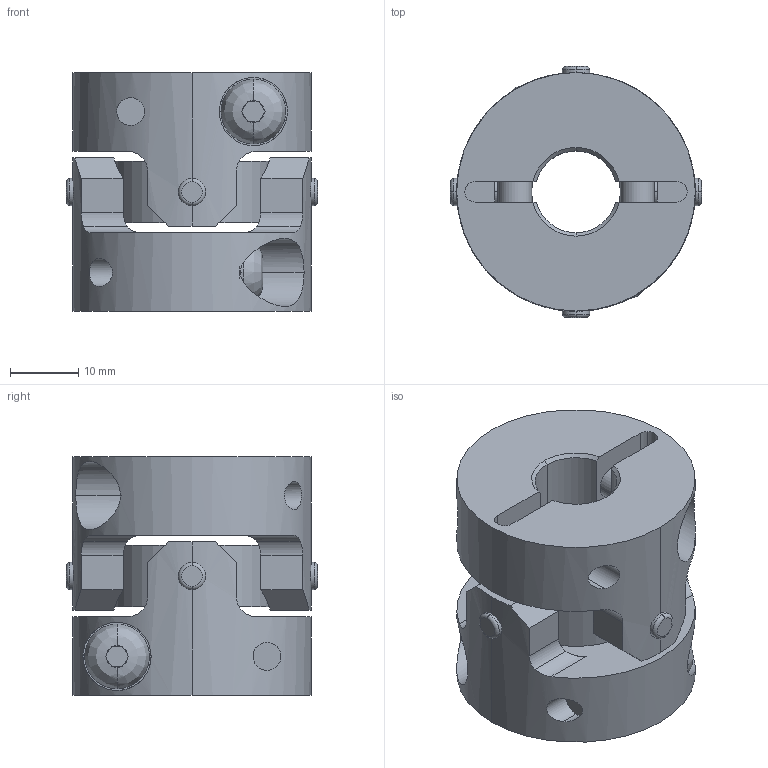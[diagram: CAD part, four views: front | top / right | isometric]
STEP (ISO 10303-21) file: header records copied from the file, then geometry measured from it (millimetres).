
FILE_DESCRIPTION((''),'2;1');
FILE_NAME('UA-35C-12×16.stp','2013-05-22T08:43:25',(''),(''),'AutoCAD STEP 2000i','AutoCAD 2000i',', , ');
FILE_SCHEMA(('CONFIG_CONTROL_DESIGN'));
Length unit declared in the file: millimetre
Products named in the file (7): UA-35C-8×14; 忣兜1; UA-3502-D14; BTN-M5; UA-3502-D08-1; UA-3502-D08; UA35-SEN
Assembly tree (8 placements, depth 3):
  UA-35C-8×14
    忣兜1
    UA-3502-D14
      BTN-M5
    UA-3502-D08-1
      BTN-M5
    UA-3502-D08
      BTN-M5
    UA35-SEN
Bounding box: 36.83 x 36.83 x 35 mm (x, y, z)
Volume: 21582.7 mm3; surface area: 11650.9 mm2
Topology: 1 solids, 1 shells, 250 faces, 646 edges, 408 vertices
Faces by surface type: plane 122, cylinder 96, cone 16, bspline 8, torus 8
Entity records: 9661 total; most frequent: CARTESIAN_POINT 3385, DIRECTION 1292, ORIENTED_EDGE 1292, EDGE_CURVE 646, AXIS2_PLACEMENT_3D 499, VERTEX_POINT 408, VECTOR 294, LINE 294
